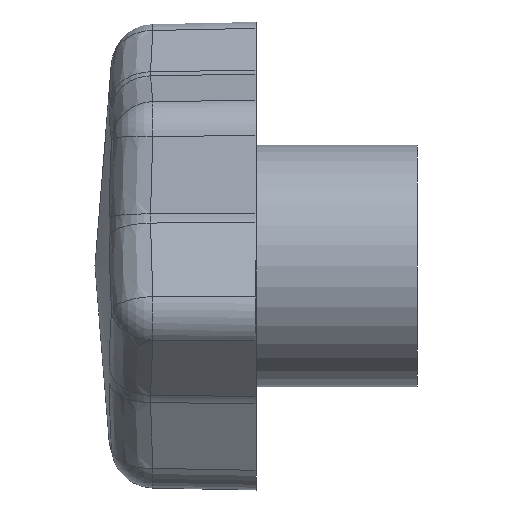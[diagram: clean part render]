
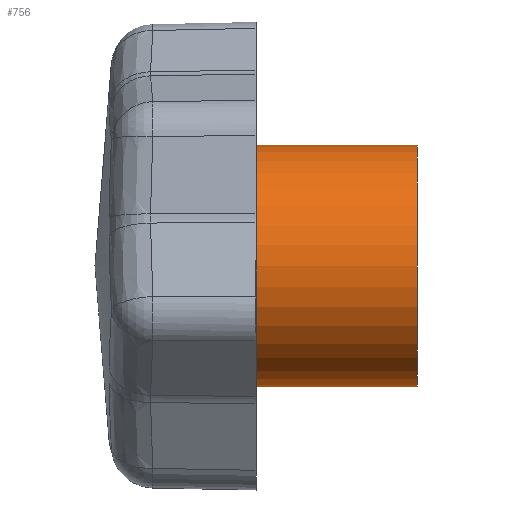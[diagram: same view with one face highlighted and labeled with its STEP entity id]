
A CAD part, left-side view. The second image highlights one B-rep face of the part: STEP entity #756.
In plain terms, the highlighted cylindrical face has radius 6 mm (diameter 12 mm), a partial arc.
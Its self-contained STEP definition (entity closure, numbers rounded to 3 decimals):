
#89 = CIRCLE ( 'NONE', #3965, 6. ) ;
#119 = FACE_OUTER_BOUND ( 'NONE', #3771, .T. ) ;
#177 = VECTOR ( 'NONE', #2417, 1000. ) ;
#323 = VERTEX_POINT ( 'NONE', #4107 ) ;
#576 = DIRECTION ( 'NONE',  ( 0., 0., -1. ) ) ;
#743 = CIRCLE ( 'NONE', #4835, 6. ) ;
#756 = ADVANCED_FACE ( 'NONE', ( #119 ), #2112, .T. ) ;
#978 = CARTESIAN_POINT ( 'NONE',  ( 0., -8., 6. ) ) ;
#998 = CARTESIAN_POINT ( 'NONE',  ( 0., -8., 0. ) ) ;
#1154 = AXIS2_PLACEMENT_3D ( 'NONE', #4422, #1390, #576 ) ;
#1164 = EDGE_CURVE ( 'NONE', #1654, #3599, #743, .T. ) ;
#1390 = DIRECTION ( 'NONE',  ( 0., -1., 0. ) ) ;
#1405 = DIRECTION ( 'NONE',  ( 0., 0., 1. ) ) ;
#1632 = CARTESIAN_POINT ( 'NONE',  ( 0., 8.001, -6. ) ) ;
#1654 = VERTEX_POINT ( 'NONE', #1761 ) ;
#1761 = CARTESIAN_POINT ( 'NONE',  ( 0., 5.508, 6. ) ) ;
#1904 = CARTESIAN_POINT ( 'NONE',  ( 0., 5.508, 0. ) ) ;
#2096 = VERTEX_POINT ( 'NONE', #978 ) ;
#2112 = CYLINDRICAL_SURFACE ( 'NONE', #1154, 6. ) ;
#2417 = DIRECTION ( 'NONE',  ( 0., -1., 0. ) ) ;
#2424 = ORIENTED_EDGE ( 'NONE', *, *, #1164, .T. ) ;
#2778 = CARTESIAN_POINT ( 'NONE',  ( 0., 8.001, 6. ) ) ;
#3162 = DIRECTION ( 'NONE',  ( 0., -1., 0. ) ) ;
#3349 = EDGE_CURVE ( 'NONE', #3599, #323, #4315, .T. ) ;
#3427 = ORIENTED_EDGE ( 'NONE', *, *, #3349, .T. ) ;
#3545 = ORIENTED_EDGE ( 'NONE', *, *, #4345, .T. ) ;
#3599 = VERTEX_POINT ( 'NONE', #4414 ) ;
#3722 = DIRECTION ( 'NONE',  ( 0., 0., -1. ) ) ;
#3725 = DIRECTION ( 'NONE',  ( 0., 1., 0. ) ) ;
#3771 = EDGE_LOOP ( 'NONE', ( #4204, #2424, #3427, #3545 ) ) ;
#3965 = AXIS2_PLACEMENT_3D ( 'NONE', #998, #3725, #1405 ) ;
#4107 = CARTESIAN_POINT ( 'NONE',  ( 0., -8., -6. ) ) ;
#4204 = ORIENTED_EDGE ( 'NONE', *, *, #4588, .F. ) ;
#4315 = LINE ( 'NONE', #1632, #177 ) ;
#4345 = EDGE_CURVE ( 'NONE', #323, #2096, #89, .T. ) ;
#4414 = CARTESIAN_POINT ( 'NONE',  ( 0., 5.508, -6. ) ) ;
#4422 = CARTESIAN_POINT ( 'NONE',  ( 0., 8.001, 0. ) ) ;
#4534 = VECTOR ( 'NONE', #3162, 1000. ) ;
#4588 = EDGE_CURVE ( 'NONE', #1654, #2096, #4647, .T. ) ;
#4647 = LINE ( 'NONE', #2778, #4534 ) ;
#4799 = DIRECTION ( 'NONE',  ( 0., -1., 0. ) ) ;
#4835 = AXIS2_PLACEMENT_3D ( 'NONE', #1904, #4799, #3722 ) ;
